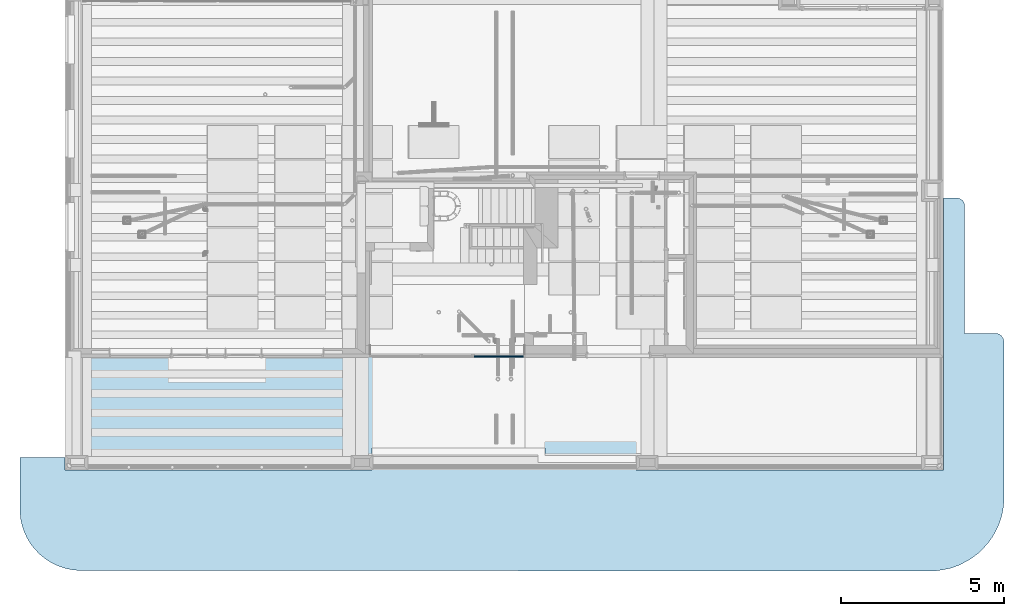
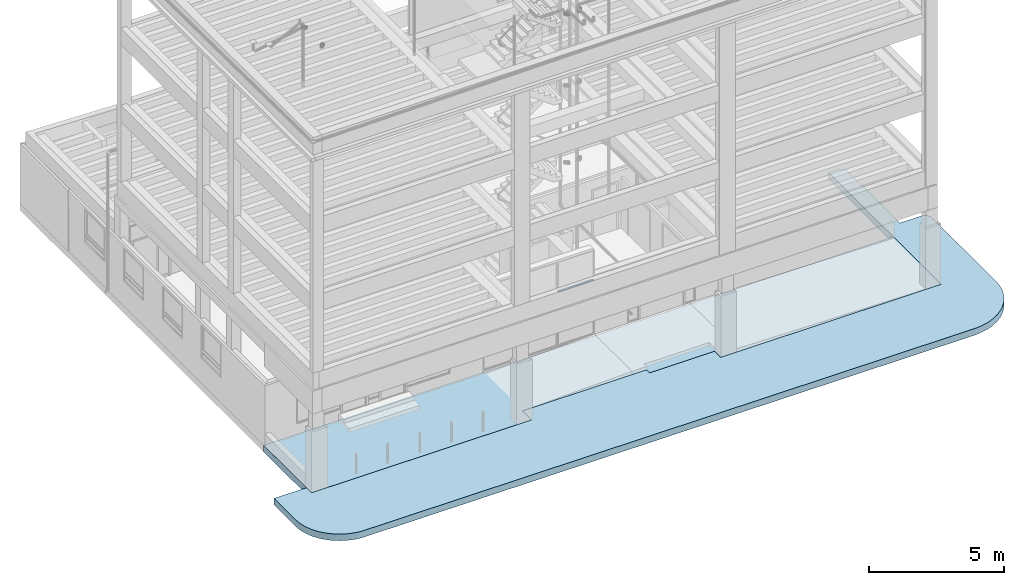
# One storey, part 17 of 106: 3 slabs.
"""IFC2X3 building model written with IfcOpenShell, lengths in metres."""

from ifc_helpers import new_model, entity, si_unit, converted_unit, derived_unit, money_unit, direction, origin_with_axes, place, context, subcontext, project, spatial, faceted_brep, material, type_object, element, save


model = new_model("IFC2X3")

# Units and contexts
model_context = context("Model", 3, precision=1e-05, world=origin_with_axes(), true_north=direction((0.0, 1.0)))
body_context = subcontext(model_context, "Body", "Model", "MODEL_VIEW", scale=1.0)
ifc_project = project(units=[si_unit("LENGTHUNIT", "METRE"), si_unit("AREAUNIT", "SQUARE_METRE"), si_unit("VOLUMEUNIT", "CUBIC_METRE"), si_unit("ABSORBEDDOSEUNIT", "GRAY"), si_unit("AMOUNTOFSUBSTANCEUNIT", "MOLE"), si_unit("DOSEEQUIVALENTUNIT", "SIEVERT"), si_unit("ELECTRICCAPACITANCEUNIT", "FARAD"), si_unit("ELECTRICCHARGEUNIT", "COULOMB"), si_unit("ELECTRICCONDUCTANCEUNIT", "SIEMENS"), si_unit("ELECTRICCURRENTUNIT", "AMPERE"), si_unit("ELECTRICRESISTANCEUNIT", "OHM"), si_unit("ELECTRICVOLTAGEUNIT", "VOLT"), si_unit("ENERGYUNIT", "JOULE"), si_unit("FORCEUNIT", "NEWTON"), si_unit("FREQUENCYUNIT", "HERTZ"), si_unit("ILLUMINANCEUNIT", "LUX"), si_unit("INDUCTANCEUNIT", "HENRY"), si_unit("LUMINOUSFLUXUNIT", "LUMEN"), si_unit("LUMINOUSINTENSITYUNIT", "CANDELA"), si_unit("MAGNETICFLUXDENSITYUNIT", "TESLA"), si_unit("MAGNETICFLUXUNIT", "WEBER"), si_unit("MASSUNIT", "GRAM"), converted_unit("PLANEANGLEUNIT", "degree", entity("IfcReal", 0.0174532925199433), si_unit("PLANEANGLEUNIT", "RADIAN"), dimensions=[0, 0, 0, 0, 0, 0, 0]), si_unit("POWERUNIT", "WATT"), si_unit("PRESSUREUNIT", "PASCAL"), si_unit("RADIOACTIVITYUNIT", "BECQUEREL"), si_unit("SOLIDANGLEUNIT", "STERADIAN"), si_unit("THERMODYNAMICTEMPERATUREUNIT", "KELVIN"), si_unit("TIMEUNIT", "SECOND"), derived_unit("ACCELERATIONUNIT", [(si_unit("LENGTHUNIT", "METRE"), 1), (si_unit("TIMEUNIT", "SECOND"), -2)]), derived_unit("ANGULARVELOCITYUNIT", [(converted_unit("PLANEANGLEUNIT", "degree", entity("IfcReal", 0.0174532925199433), si_unit("PLANEANGLEUNIT", "RADIAN"), dimensions=[0, 0, 0, 0, 0, 0, 0]), 1), (si_unit("TIMEUNIT", "SECOND"), -1)]), derived_unit("CURVATUREUNIT", [(converted_unit("PLANEANGLEUNIT", "degree", entity("IfcReal", 0.0174532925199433), si_unit("PLANEANGLEUNIT", "RADIAN"), dimensions=[0, 0, 0, 0, 0, 0, 0]), 1), (si_unit("LENGTHUNIT", "METRE"), -1)]), derived_unit("DYNAMICVISCOSITYUNIT", [(si_unit("PRESSUREUNIT", "PASCAL"), 1), (si_unit("TIMEUNIT", "SECOND"), 1)]), derived_unit("HEATFLUXDENSITYUNIT", [(si_unit("POWERUNIT", "WATT"), 1), (si_unit("LENGTHUNIT", "METRE"), -2)]), derived_unit("HEATINGVALUEUNIT", [(si_unit("ENERGYUNIT", "JOULE"), 1), (si_unit("MASSUNIT", "GRAM"), -1)]), derived_unit("INTEGERCOUNTRATEUNIT", [(si_unit("TIMEUNIT", "SECOND"), -1)]), derived_unit("IONCONCENTRATIONUNIT", [(si_unit("MASSUNIT", "GRAM"), 1), (si_unit("VOLUMEUNIT", "CUBIC_METRE"), -1)]), derived_unit("ISOTHERMALMOISTURECAPACITYUNIT", [(si_unit("VOLUMEUNIT", "CUBIC_METRE"), 1), (si_unit("MASSUNIT", "GRAM"), -1)]), derived_unit("KINEMATICVISCOSITYUNIT", [(si_unit("AREAUNIT", "SQUARE_METRE"), 1), (si_unit("TIMEUNIT", "SECOND"), -1)]), derived_unit("LINEARFORCEUNIT", [(si_unit("FORCEUNIT", "NEWTON"), 1), (si_unit("LENGTHUNIT", "METRE"), -1)]), derived_unit("LINEARMOMENTUNIT", [(si_unit("FORCEUNIT", "NEWTON"), 1), (si_unit("LENGTHUNIT", "METRE"), -1)]), derived_unit("LINEARSTIFFNESSUNIT", [(si_unit("FORCEUNIT", "NEWTON"), 1), (si_unit("LENGTHUNIT", "METRE"), -1)]), derived_unit("LINEARVELOCITYUNIT", [(si_unit("LENGTHUNIT", "METRE"), 1), (si_unit("TIMEUNIT", "SECOND"), -1)]), derived_unit("LUMINOUSINTENSITYDISTRIBUTIONUNIT", [(si_unit("LUMINOUSINTENSITYUNIT", "CANDELA"), 1), (si_unit("LUMINOUSFLUXUNIT", "LUMEN"), -1)]), derived_unit("MASSDENSITYUNIT", [(si_unit("MASSUNIT", "GRAM"), 1), (si_unit("VOLUMEUNIT", "CUBIC_METRE"), -1)]), derived_unit("MASSFLOWRATEUNIT", [(si_unit("MASSUNIT", "GRAM"), 1), (si_unit("TIMEUNIT", "SECOND"), -1)]), derived_unit("MASSPERLENGTHUNIT", [(si_unit("MASSUNIT", "GRAM"), 1), (si_unit("LENGTHUNIT", "METRE"), -1)]), derived_unit("MODULUSOFELASTICITYUNIT", [(si_unit("FORCEUNIT", "NEWTON"), 1), (si_unit("AREAUNIT", "SQUARE_METRE"), -1)]), derived_unit("MODULUSOFLINEARSUBGRADEREACTIONUNIT", [(si_unit("FORCEUNIT", "NEWTON"), 1), (si_unit("LENGTHUNIT", "METRE"), -2)]), derived_unit("MODULUSOFROTATIONALSUBGRADEREACTIONUNIT", [(si_unit("FORCEUNIT", "NEWTON"), 1), (si_unit("LENGTHUNIT", "METRE"), 1)]), derived_unit("MODULUSOFSUBGRADEREACTIONUNIT", [(si_unit("FORCEUNIT", "NEWTON"), 1), (si_unit("VOLUMEUNIT", "CUBIC_METRE"), -1)]), derived_unit("MOISTUREDIFFUSIVITYUNIT", [(si_unit("VOLUMEUNIT", "CUBIC_METRE"), 1), (si_unit("TIMEUNIT", "SECOND"), -1)]), derived_unit("MOLECULARWEIGHTUNIT", [(si_unit("MASSUNIT", "GRAM"), 1), (si_unit("AMOUNTOFSUBSTANCEUNIT", "MOLE"), -1)]), derived_unit("PLANARFORCEUNIT", [(si_unit("FORCEUNIT", "NEWTON"), 1), (si_unit("LENGTHUNIT", "METRE"), -2)]), derived_unit("ROTATIONALFREQUENCYUNIT", [(si_unit("TIMEUNIT", "SECOND"), -1)]), derived_unit("ROTATIONALMASSUNIT", [(si_unit("MASSUNIT", "GRAM"), 1), (si_unit("LENGTHUNIT", "METRE"), 2)]), derived_unit("ROTATIONALSTIFFNESSUNIT", [(si_unit("FORCEUNIT", "NEWTON"), 1), (si_unit("LENGTHUNIT", "METRE"), 1), (converted_unit("PLANEANGLEUNIT", "degree", entity("IfcReal", 0.0174532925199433), si_unit("PLANEANGLEUNIT", "RADIAN"), dimensions=[0, 0, 0, 0, 0, 0, 0]), -1)]), derived_unit("SECTIONAREAINTEGRALUNIT", [(si_unit("LENGTHUNIT", "METRE"), 5)]), derived_unit("SECTIONMODULUSUNIT", [(si_unit("LENGTHUNIT", "METRE"), 3)]), derived_unit("SHEARMODULUSUNIT", [(si_unit("FORCEUNIT", "NEWTON"), 1), (si_unit("AREAUNIT", "SQUARE_METRE"), -1)]), derived_unit("SOUNDPOWERUNIT", [(si_unit("ENERGYUNIT", "JOULE"), 1), (si_unit("TIMEUNIT", "SECOND"), -1)]), derived_unit("SPECIFICHEATCAPACITYUNIT", [(si_unit("FORCEUNIT", "NEWTON"), 1), (si_unit("MASSUNIT", "GRAM"), -1), (si_unit("THERMODYNAMICTEMPERATUREUNIT", "KELVIN"), -1)]), derived_unit("TEMPERATUREGRADIENTUNIT", [(si_unit("THERMODYNAMICTEMPERATUREUNIT", "KELVIN"), 1), (si_unit("LENGTHUNIT", "METRE"), -1)]), derived_unit("THERMALADMITTANCEUNIT", [(si_unit("POWERUNIT", "WATT"), 1), (si_unit("AREAUNIT", "SQUARE_METRE"), -1), (si_unit("THERMODYNAMICTEMPERATUREUNIT", "KELVIN"), -1)]), derived_unit("THERMALCONDUCTANCEUNIT", [(si_unit("POWERUNIT", "WATT"), 1), (si_unit("LENGTHUNIT", "METRE"), -1), (si_unit("THERMODYNAMICTEMPERATUREUNIT", "KELVIN"), -1)]), derived_unit("THERMALEXPANSIONCOEFFICIENTUNIT", [(si_unit("THERMODYNAMICTEMPERATUREUNIT", "KELVIN"), -1)]), derived_unit("THERMALRESISTANCEUNIT", [(si_unit("AREAUNIT", "SQUARE_METRE"), 1), (si_unit("POWERUNIT", "WATT"), -1)]), derived_unit("THERMALTRANSMITTANCEUNIT", [(si_unit("POWERUNIT", "WATT"), 1), (si_unit("AREAUNIT", "SQUARE_METRE"), -1), (si_unit("THERMODYNAMICTEMPERATUREUNIT", "KELVIN"), -1)]), derived_unit("TORQUEUNIT", [(si_unit("FORCEUNIT", "NEWTON"), 1), (si_unit("LENGTHUNIT", "METRE"), 1)]), derived_unit("VAPORPERMEABILITYUNIT", [(si_unit("MASSUNIT", "GRAM"), 1), (si_unit("TIMEUNIT", "SECOND"), -1)]), derived_unit("VOLUMETRICFLOWRATEUNIT", [(si_unit("VOLUMEUNIT", "CUBIC_METRE"), 1), (si_unit("TIMEUNIT", "SECOND"), -1)]), derived_unit("WARPINGCONSTANTUNIT", [(si_unit("LENGTHUNIT", "METRE"), 6)]), derived_unit("WARPINGMOMENTUNIT", [(si_unit("FORCEUNIT", "NEWTON"), 1), (si_unit("LENGTHUNIT", "METRE"), 2)]), money_unit("GBP")], contexts=[model_context])

# Site, building, storey
site_placement = place(None, origin_with_axes())
site = spatial("IfcSite", under=ifc_project, at=site_placement, Name="Site", CompositionType="ELEMENT")
building_placement = place(site_placement, origin_with_axes())
building = spatial("IfcBuilding", under=site, at=building_placement, Name="Building01", CompositionType="ELEMENT")
storey_placement = place(building_placement, origin_with_axes())
storey = spatial("IfcBuildingStorey", under=building, at=storey_placement, Name="GF", CompositionType="ELEMENT", Elevation=0.0)

# Slabs
ifc_material_1 = material(Name="A_BSUK_Slabs")
slab_type = type_object("IfcSlabType", Name="A-FloorsSlabs A_BSUK_Slabs", PredefinedType="FLOOR")
placement = place(storey_placement, origin_with_axes())
element("IfcSlab", 1, at=placement, inside=storey, type_object=slab_type, material=ifc_material_1, Name="A-FloorsSlabs A_BSUK_Slabs", ObjectType="CompoundSlabLeaf", context=body_context, shape_type="Brep", body=[
    faceted_brep([(26.981285, 3.559165, -0.445), (26.981285, 3.559165, -0.145), (26.981285, -0.000988, -0.145), (26.981285, -0.000988, -0.445), (-0.000238, 3.559142, -0.445), (-0.000238, 3.559142, -0.145), (1.7e-05, -0.000329, -0.445), (1.7e-05, -0.000329, -0.145), (9.437557, -0.000329, -0.445), (9.437557, -0.000329, -0.145), (9.437557, 0.449338, -0.445), (9.437557, 0.449338, -0.145), (9.437557, 0.672774, -0.445), (9.437557, 0.672774, -0.145), (14.745613, 0.672774, -0.445), (14.745613, 0.672774, -0.145), (14.745613, 0.449009, -0.445), (14.745613, 0.449009, -0.145), (17.533212, 0.449009, -0.445), (17.533212, 0.449009, -0.145), (17.533212, -0.000988, -0.445), (17.533212, -0.000988, -0.145)], [[[0, 1, 2, 3]], [[4, 5, 1, 0]], [[6, 7, 5, 4]], [[8, 9, 7, 6]], [[10, 11, 9, 8]], [[12, 13, 11, 10]], [[14, 15, 13, 12]], [[16, 17, 15, 14]], [[18, 19, 17, 16]], [[20, 21, 19, 18]], [[3, 2, 21, 20]], [[1, 5, 7, 9, 11, 13, 15, 17, 19, 21, 2]], [[3, 20, 18, 16, 14, 12, 10, 8, 6, 4, 0]]]),
])
element("IfcSlab", 2, at=placement, inside=storey, type_object=slab_type, material=ifc_material_1, Name="A-FloorsSlabs A_BSUK_Slabs", ObjectType="CompoundSlabLeaf", context=body_context, shape_type="Brep", body=[
    faceted_brep([(-1.380966, 0.377565, -0.445), (-1.380966, 0.377565, -0.145), (1.4e-05, 0.377513, -0.145), (1.4e-05, 0.377513, -0.445), (-1.38103, -1.312597, -0.445), (-1.38103, -1.312597, -0.145), (-1.357941, -1.529854, -0.445), (-1.357941, -1.529854, -0.145), (-1.306799, -1.742445, -0.445), (-1.306799, -1.742445, -0.145), (-1.261575, -1.877344, -0.445), (-1.261575, -1.877344, -0.145), (-1.170477, -2.079855, -0.445), (-1.170477, -2.079855, -0.145), (-1.047549, -2.283018, -0.445), (-1.047549, -2.283018, -0.145), (-0.941555, -2.417917, -0.445), (-0.941555, -2.417917, -0.145), (-0.7746, -2.592771, -0.445), (-0.7746, -2.592771, -0.145), (-0.582766, -2.746679, -0.445), (-0.582766, -2.746679, -0.145), (-0.395794, -2.861828, -0.445), (-0.395794, -2.861828, -0.145), (-0.168588, -2.964932, -0.445), (-0.168588, -2.964932, -0.145), (0.039993, -3.031347, -0.445), (0.039993, -3.031347, -0.145), (0.219552, -3.066674, -0.445), (0.219552, -3.066674, -0.145), (0.387188, -3.083765, -0.445), (0.387188, -3.083765, -0.145), (0.55433, -3.086414, -0.445), (0.55433, -3.086414, -0.145), (26.641795, -3.104674, -0.445), (26.641795, -3.104674, -0.145), (26.820944, -3.092737, -0.445), (26.820944, -3.092737, -0.145), (27.219463, -3.013879, -0.445), (27.219463, -3.013879, -0.145), (27.446114, -2.931245, -0.445), (27.446114, -2.931245, -0.145), (27.779781, -2.761027, -0.445), (27.779781, -2.761027, -0.145), (28.051214, -2.558457, -0.445), (28.051214, -2.558457, -0.145), (28.167486, -2.453027, -0.445), (28.167486, -2.453027, -0.145), (28.363013, -2.231361, -0.445), (28.363013, -2.231361, -0.145), (28.480425, -2.068468, -0.445), (28.480425, -2.068468, -0.145), (28.611741, -1.835956, -0.445), (28.611741, -1.835956, -0.145), (28.681422, -1.679135, -0.445), (28.681422, -1.679135, -0.145), (28.750791, -1.478055, -0.445), (28.750791, -1.478055, -0.145), (28.797066, -1.292407, -0.445), (28.797066, -1.292407, -0.145), (28.82674, -1.109668, -0.445), (28.82674, -1.109668, -0.145), (28.841115, -0.936913, -0.445), (28.841115, -0.936913, -0.145), (28.841298, 3.92873, -0.445), (28.841298, 3.92873, -0.145), (28.822083, 4.02921, -0.445), (28.822083, 4.02921, -0.145), (28.76432, 4.118123, -0.445), (28.76432, 4.118123, -0.145), (28.696985, 4.167716, -0.445), (28.696985, 4.167716, -0.145), (28.63884, 4.189913, -0.445), (28.63884, 4.189913, -0.145), (28.576029, 4.197758, -0.445), (28.576029, 4.197758, -0.145), (27.63274, 4.197793, -0.445), (27.63274, 4.197793, -0.145), (27.632886, 8.097401, -0.445), (27.632886, 8.097401, -0.145), (27.629754, 8.1627, -0.445), (27.629754, 8.1627, -0.145), (27.605065, 8.227966, -0.445), (27.605065, 8.227966, -0.145), (27.566836, 8.280731, -0.445), (27.566836, 8.280731, -0.145), (27.51739, 8.318193, -0.445), (27.51739, 8.318193, -0.145), (27.451976, 8.344022, -0.445), (27.451976, 8.344022, -0.145), (27.384393, 8.349192, -0.445), (27.384393, 8.349192, -0.145), (26.981469, 8.349207, -0.445), (26.981469, 8.349207, -0.145), (26.981155, -0.000988, -0.445), (26.981155, -0.000988, -0.145), (17.533212, -0.000633, -0.445), (17.533212, -0.000633, -0.145), (17.533196, 0.449107, -0.445), (17.533196, 0.449107, -0.145), (14.745613, 0.449009, -0.445), (14.745613, 0.449009, -0.145), (14.745605, 0.672774, -0.445), (14.745605, 0.672774, -0.145), (9.437541, 0.672587, -0.445), (9.437541, 0.672587, -0.145), (9.437565, -0.000329, -0.445), (9.437565, -0.000329, -0.145), (1.7e-05, -0.000662, -0.445), (1.7e-05, -0.000662, -0.145)], [[[0, 1, 2, 3]], [[4, 5, 1, 0]], [[6, 7, 5, 4]], [[8, 9, 7, 6]], [[10, 11, 9, 8]], [[12, 13, 11, 10]], [[14, 15, 13, 12]], [[16, 17, 15, 14]], [[18, 19, 17, 16]], [[20, 21, 19, 18]], [[22, 23, 21, 20]], [[24, 25, 23, 22]], [[26, 27, 25, 24]], [[28, 29, 27, 26]], [[30, 31, 29, 28]], [[32, 33, 31, 30]], [[34, 35, 33, 32]], [[36, 37, 35, 34]], [[38, 39, 37, 36]], [[40, 41, 39, 38]], [[42, 43, 41, 40]], [[44, 45, 43, 42]], [[46, 47, 45, 44]], [[48, 49, 47, 46]], [[50, 51, 49, 48]], [[52, 53, 51, 50]], [[54, 55, 53, 52]], [[56, 57, 55, 54]], [[58, 59, 57, 56]], [[60, 61, 59, 58]], [[62, 63, 61, 60]], [[64, 65, 63, 62]], [[66, 67, 65, 64]], [[68, 69, 67, 66]], [[70, 71, 69, 68]], [[72, 73, 71, 70]], [[74, 75, 73, 72]], [[76, 77, 75, 74]], [[78, 79, 77, 76]], [[80, 81, 79, 78]], [[82, 83, 81, 80]], [[84, 85, 83, 82]], [[86, 87, 85, 84]], [[88, 89, 87, 86]], [[90, 91, 89, 88]], [[92, 93, 91, 90]], [[94, 95, 93, 92]], [[96, 97, 95, 94]], [[98, 99, 97, 96]], [[100, 101, 99, 98]], [[102, 103, 101, 100]], [[104, 105, 103, 102]], [[106, 107, 105, 104]], [[108, 109, 107, 106]], [[3, 2, 109, 108]], [[1, 5, 7, 9, 11, 13, 15, 17, 19, 21, 23, 25, 27, 29, 31, 33, 35, 37, 39, 41, 43, 45, 47, 49, 51, 53, 55, 57, 59, 61, 63, 65, 67, 69, 71, 73, 75, 77, 79, 81, 83, 85, 87, 89, 91, 93, 95, 97, 99, 101, 103, 105, 107, 109, 2]], [[3, 108, 106, 104, 102, 100, 98, 96, 94, 92, 90, 88, 86, 84, 82, 80, 78, 76, 74, 72, 70, 68, 66, 64, 62, 60, 58, 56, 54, 52, 50, 48, 46, 44, 42, 40, 38, 36, 34, 32, 30, 28, 26, 24, 22, 20, 18, 16, 14, 12, 10, 8, 6, 4, 0]]]),
])
ifc_material_2 = material(Name="A_BSUK_Window_Frames")
element("IfcSlab", 3, at=placement, inside=storey, type_object=slab_type, material=ifc_material_2, Name="A-FloorsSlabs A_BSUK_Slabs", ObjectType="CompoundSlabLeaf", context=body_context, shape_type="Brep", body=[
    faceted_brep([(12.576099, 3.458391, 2.442), (12.576099, 3.458391, 2.484), (12.576099, 3.505216, 2.484), (12.576099, 3.505216, 2.442), (14.082099, 3.458391, 2.442), (14.082099, 3.458391, 2.484), (14.082099, 3.505159, 2.442), (14.082099, 3.505159, 2.484)], [[[0, 1, 2, 3]], [[4, 5, 1, 0]], [[6, 7, 5, 4]], [[3, 2, 7, 6]], [[1, 5, 7, 2]], [[3, 6, 4, 0]]]),
])

save(model, "model.ifc")
